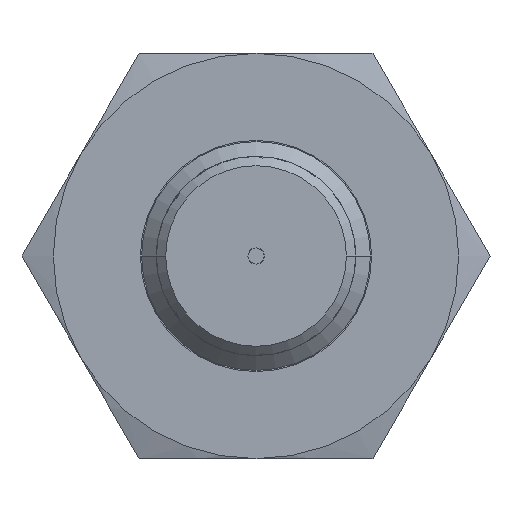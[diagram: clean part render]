
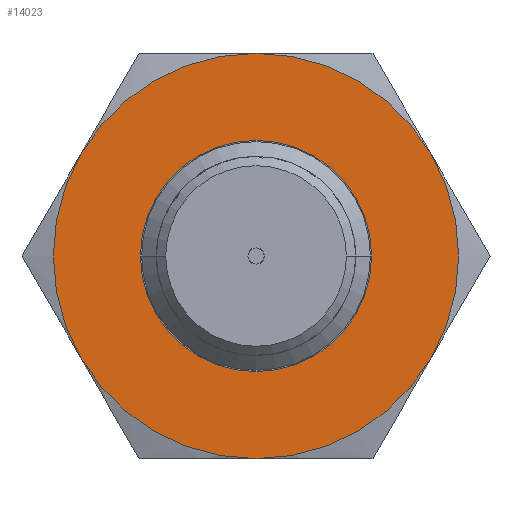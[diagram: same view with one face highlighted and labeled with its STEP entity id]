
A CAD part, left-side view. The second image highlights one B-rep face of the part: STEP entity #14023.
In plain terms, the highlighted free-form (B-spline) face has degree [1, 1] with [2, 2] control points.
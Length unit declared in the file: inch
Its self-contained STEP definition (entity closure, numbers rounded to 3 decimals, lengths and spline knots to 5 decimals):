
#5787=CARTESIAN_POINT('',(-0.2475,0.0,-0.4375));
#5788=VERTEX_POINT('',#5787);
#5822=CARTESIAN_POINT('',(-0.2475,0.,0.4375));
#5823=VERTEX_POINT('',#5822);
#5830=CARTESIAN_POINT('',(-0.2475,0.0,0.0));
#5831=DIRECTION('',(-1.0,0.0,0.0));
#5832=DIRECTION('',(0.0,0.0,-1.0));
#5833=AXIS2_PLACEMENT_3D('',#5830,#5831,#5832);
#5834=CIRCLE('',#5833,0.4375);
#5835=EDGE_CURVE('',#5788,#5823,#5834,.T.);
#6416=CARTESIAN_POINT('',(-0.2475,0.2495,0.0));
#6417=VERTEX_POINT('',#6416);
#6426=CARTESIAN_POINT('',(-0.2475,-0.2495,0.));
#6427=VERTEX_POINT('',#6426);
#6428=CARTESIAN_POINT('',(-0.2475,0.0,0.0));
#6429=DIRECTION('',(-1.0,0.0,0.0));
#6430=DIRECTION('',(0.0,1.0,0.0));
#6431=AXIS2_PLACEMENT_3D('',#6428,#6429,#6430);
#6432=CIRCLE('',#6431,0.2495);
#6433=EDGE_CURVE('',#6417,#6427,#6432,.T.);
#12654=CARTESIAN_POINT('',(-0.2475,0.0,0.0));
#12655=DIRECTION('',(-1.0,0.0,0.0));
#12656=DIRECTION('',(0.0,1.0,0.0));
#12657=AXIS2_PLACEMENT_3D('',#12654,#12655,#12656);
#12658=CIRCLE('',#12657,0.2495);
#12659=EDGE_CURVE('',#6427,#6417,#12658,.T.);
#13996=CARTESIAN_POINT('',(-0.2475,0.0,0.0));
#13997=DIRECTION('',(-1.0,0.0,0.0));
#13998=DIRECTION('',(0.0,0.0,-1.0));
#13999=AXIS2_PLACEMENT_3D('',#13996,#13997,#13998);
#14000=CIRCLE('',#13999,0.4375);
#14001=EDGE_CURVE('',#5823,#5788,#14000,.T.);
#14010=CARTESIAN_POINT('',(-0.2475,0.4375,0.4375));
#14011=CARTESIAN_POINT('',(-0.2475,0.4375,-0.4375));
#14012=CARTESIAN_POINT('',(-0.2475,-0.4375,0.4375));
#14013=CARTESIAN_POINT('',(-0.2475,-0.4375,-0.4375));
#14014=B_SPLINE_SURFACE_WITH_KNOTS('',1,1,((#14010,#14012),(#14011,#14013)),.UNSPECIFIED.,.F.,.F.,.U.,(2,2),(2,2),(0.0,0.875),(0.0,0.875),.UNSPECIFIED.);
#14015=ORIENTED_EDGE('',*,*,#5835,.T.);
#14016=ORIENTED_EDGE('',*,*,#14001,.T.);
#14017=EDGE_LOOP('',(#14015,#14016));
#14018=FACE_OUTER_BOUND('',#14017,.T.);
#14019=ORIENTED_EDGE('',*,*,#6433,.F.);
#14020=ORIENTED_EDGE('',*,*,#12659,.F.);
#14021=EDGE_LOOP('',(#14019,#14020));
#14022=FACE_BOUND('',#14021,.T.);
#14023=ADVANCED_FACE('',(#14018,#14022),#14014,.T.);
